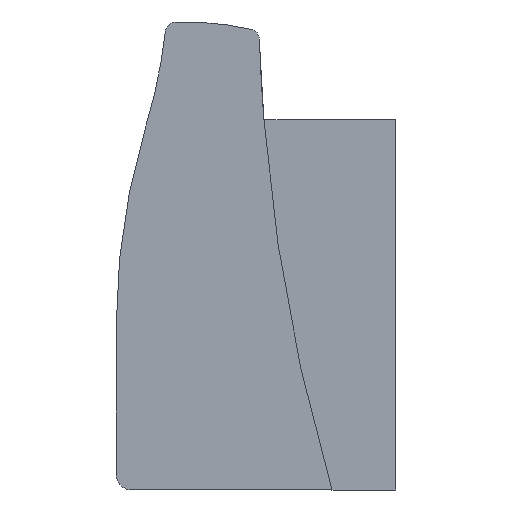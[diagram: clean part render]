
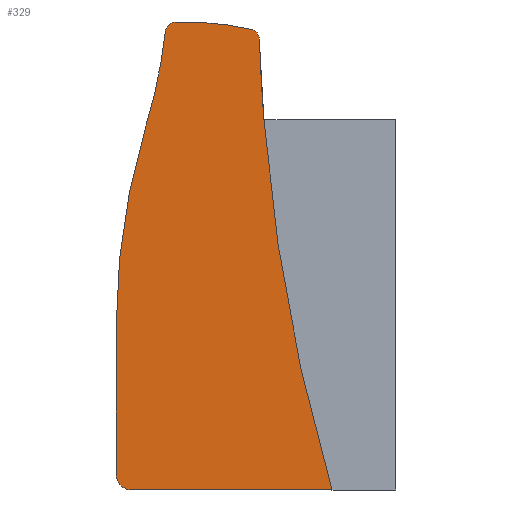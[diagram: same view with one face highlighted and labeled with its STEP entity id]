
A CAD part, front view. The second image highlights one B-rep face of the part: STEP entity #329.
In plain terms, the highlighted planar face has unit normal (0, -1, 0).
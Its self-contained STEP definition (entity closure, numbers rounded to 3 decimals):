
#32 = CIRCLE ( 'NONE', #1238, 3. ) ;
#34 = CIRCLE ( 'NONE', #1220, 99. ) ;
#88 = LINE ( 'NONE', #647, #92 ) ;
#92 = VECTOR ( 'NONE', #827, 1000. ) ;
#152 = CIRCLE ( 'NONE', #1218, 2. ) ;
#203 = AXIS2_PLACEMENT_3D ( 'NONE', #1682, #1746, #1748 ) ;
#216 = AXIS2_PLACEMENT_3D ( 'NONE', #760, #767, #768 ) ;
#219 = AXIS2_PLACEMENT_3D ( 'NONE', #772, #776, #773 ) ;
#271 = CIRCLE ( 'NONE', #216, 2. ) ;
#274 = CIRCLE ( 'NONE', #219, 348.5 ) ;
#316 = CIRCLE ( 'NONE', #1225, 132.8 ) ;
#329 = ADVANCED_FACE ( 'NONE', ( #1108 ), #1674, .T. ) ;
#471 = ORIENTED_EDGE ( 'NONE', *, *, #1918, .F. ) ;
#524 = ORIENTED_EDGE ( 'NONE', *, *, #1965, .F. ) ;
#534 = ORIENTED_EDGE ( 'NONE', *, *, #1159, .F. ) ;
#547 = VECTOR ( 'NONE', #803, 1000. ) ;
#589 = DIRECTION ( 'NONE',  ( 0., 1., 0. ) ) ;
#591 = DIRECTION ( 'NONE',  ( 1., 0., 0. ) ) ;
#593 = CARTESIAN_POINT ( 'NONE',  ( -50.5, -2.5, -16.6 ) ) ;
#599 = CARTESIAN_POINT ( 'NONE',  ( -142.508, -2.5, 79. ) ) ;
#640 = CARTESIAN_POINT ( 'NONE',  ( 79.3, -2.5, 11.675 ) ) ;
#647 = CARTESIAN_POINT ( 'NONE',  ( -50.5, -2.5, -19.6 ) ) ;
#666 = DIRECTION ( 'NONE',  ( 1., 0., 0. ) ) ;
#667 = DIRECTION ( 'NONE',  ( 0., -1., 0. ) ) ;
#673 = DIRECTION ( 'NONE',  ( 1., 0., 0. ) ) ;
#674 = DIRECTION ( 'NONE',  ( 0., 1., 0. ) ) ;
#760 = CARTESIAN_POINT ( 'NONE',  ( -42.113, -2.5, 67.957 ) ) ;
#767 = DIRECTION ( 'NONE',  ( 0., 1., 0. ) ) ;
#768 = DIRECTION ( 'NONE',  ( 1., 0., 0. ) ) ;
#772 = CARTESIAN_POINT ( 'NONE',  ( 322.2, -2.5, 78.5 ) ) ;
#773 = DIRECTION ( 'NONE',  ( 1., 0., 0. ) ) ;
#776 = DIRECTION ( 'NONE',  ( 0., -1., 0. ) ) ;
#803 = DIRECTION ( 'NONE',  ( 0., 0., 1. ) ) ;
#807 = CARTESIAN_POINT ( 'NONE',  ( -53.5, -2.5, -16.6 ) ) ;
#827 = DIRECTION ( 'NONE',  ( -1., 0., 0. ) ) ;
#870 = VERTEX_POINT ( 'NONE', #1487 ) ;
#890 = VERTEX_POINT ( 'NONE', #1507 ) ;
#902 = VERTEX_POINT ( 'NONE', #1509 ) ;
#908 = VERTEX_POINT ( 'NONE', #1513 ) ;
#913 = VERTEX_POINT ( 'NONE', #1519 ) ;
#983 = VERTEX_POINT ( 'NONE', #1625 ) ;
#984 = VERTEX_POINT ( 'NONE', #1626 ) ;
#986 = VERTEX_POINT ( 'NONE', #1630 ) ;
#990 = VERTEX_POINT ( 'NONE', #1649 ) ;
#993 = VERTEX_POINT ( 'NONE', #1646 ) ;
#1079 = ORIENTED_EDGE ( 'NONE', *, *, #1944, .F. ) ;
#1108 = FACE_OUTER_BOUND ( 'NONE', #1349, .T. ) ;
#1159 = EDGE_CURVE ( 'NONE', #908, #984, #1417, .T. ) ;
#1218 = AXIS2_PLACEMENT_3D ( 'NONE', #1822, #1843, #1758 ) ;
#1219 = AXIS2_PLACEMENT_3D ( 'NONE', #1854, #1809, #1824 ) ;
#1220 = AXIS2_PLACEMENT_3D ( 'NONE', #599, #667, #666 ) ;
#1225 = AXIS2_PLACEMENT_3D ( 'NONE', #640, #674, #673 ) ;
#1236 = AXIS2_PLACEMENT_3D ( 'NONE', #1804, #1797, #1775 ) ;
#1238 = AXIS2_PLACEMENT_3D ( 'NONE', #593, #589, #591 ) ;
#1241 = EDGE_CURVE ( 'NONE', #913, #983, #271, .T. ) ;
#1243 = EDGE_CURVE ( 'NONE', #993, #902, #274, .T. ) ;
#1268 = EDGE_CURVE ( 'NONE', #984, #986, #316, .T. ) ;
#1279 = ORIENTED_EDGE ( 'NONE', *, *, #1241, .F. ) ;
#1290 = ORIENTED_EDGE ( 'NONE', *, *, #1971, .F. ) ;
#1311 = ORIENTED_EDGE ( 'NONE', *, *, #1871, .F. ) ;
#1338 = ORIENTED_EDGE ( 'NONE', *, *, #1872, .F. ) ;
#1349 = EDGE_LOOP ( 'NONE', ( #1079, #1290, #1279, #1338, #1352, #534, #1311, #471, #524, #1365 ) ) ;
#1352 = ORIENTED_EDGE ( 'NONE', *, *, #1268, .F. ) ;
#1365 = ORIENTED_EDGE ( 'NONE', *, *, #1243, .F. ) ;
#1403 = CIRCLE ( 'NONE', #1219, 348.5 ) ;
#1408 = CIRCLE ( 'NONE', #1236, 58. ) ;
#1417 = LINE ( 'NONE', #807, #547 ) ;
#1487 = CARTESIAN_POINT ( 'NONE',  ( -50.5, -2.5, -19.6 ) ) ;
#1507 = CARTESIAN_POINT ( 'NONE',  ( -12.208, -2.5, -19.6 ) ) ;
#1509 = CARTESIAN_POINT ( 'NONE',  ( -25.235, -2.5, 51.28 ) ) ;
#1513 = CARTESIAN_POINT ( 'NONE',  ( -53.5, -2.5, -16.6 ) ) ;
#1519 = CARTESIAN_POINT ( 'NONE',  ( -44.101, -2.5, 68.175 ) ) ;
#1625 = CARTESIAN_POINT ( 'NONE',  ( -42.171, -2.5, 69.956 ) ) ;
#1626 = CARTESIAN_POINT ( 'NONE',  ( -53.5, -2.5, 11.675 ) ) ;
#1630 = CARTESIAN_POINT ( 'NONE',  ( -47.775, -2.5, 50.246 ) ) ;
#1646 = CARTESIAN_POINT ( 'NONE',  ( -26.099, -2.5, 66.657 ) ) ;
#1649 = CARTESIAN_POINT ( 'NONE',  ( -27.655, -2.5, 68.54 ) ) ;
#1674 = PLANE ( 'NONE',  #203 ) ;
#1682 = CARTESIAN_POINT ( 'NONE',  ( -11.5, -2.5, -19.6 ) ) ;
#1746 = DIRECTION ( 'NONE',  ( 0., -1., 0. ) ) ;
#1748 = DIRECTION ( 'NONE',  ( 1., 0., 0. ) ) ;
#1758 = DIRECTION ( 'NONE',  ( 1., 0., 0. ) ) ;
#1775 = DIRECTION ( 'NONE',  ( 1., 0., 0. ) ) ;
#1797 = DIRECTION ( 'NONE',  ( 0., 1., 0. ) ) ;
#1804 = CARTESIAN_POINT ( 'NONE',  ( -40.5, -2.5, 11.98 ) ) ;
#1809 = DIRECTION ( 'NONE',  ( 0., -1., 0. ) ) ;
#1822 = CARTESIAN_POINT ( 'NONE',  ( -28.098, -2.5, 66.589 ) ) ;
#1824 = DIRECTION ( 'NONE',  ( 1., 0., 0. ) ) ;
#1843 = DIRECTION ( 'NONE',  ( 0., 1., 0. ) ) ;
#1854 = CARTESIAN_POINT ( 'NONE',  ( 322.2, -2.5, 78.5 ) ) ;
#1871 = EDGE_CURVE ( 'NONE', #870, #908, #32, .T. ) ;
#1872 = EDGE_CURVE ( 'NONE', #986, #913, #34, .T. ) ;
#1918 = EDGE_CURVE ( 'NONE', #890, #870, #88, .T. ) ;
#1944 = EDGE_CURVE ( 'NONE', #990, #993, #152, .T. ) ;
#1965 = EDGE_CURVE ( 'NONE', #902, #890, #1403, .T. ) ;
#1971 = EDGE_CURVE ( 'NONE', #983, #990, #1408, .T. ) ;
